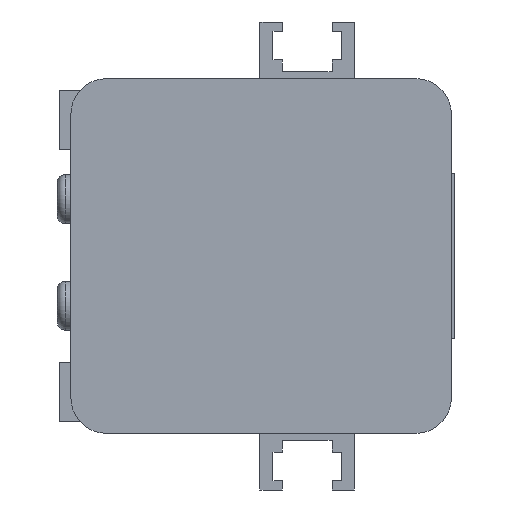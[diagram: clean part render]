
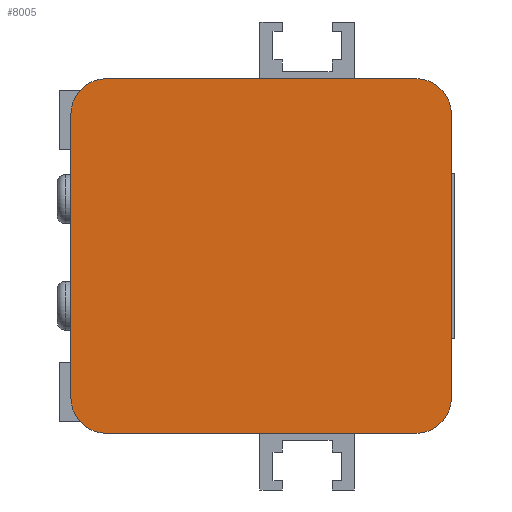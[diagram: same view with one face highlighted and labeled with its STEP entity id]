
A CAD part, left-side view. The second image highlights one B-rep face of the part: STEP entity #8005.
In plain terms, the highlighted planar face has unit normal (-1, 0, 0) as drawn and (0, 0, -1) by its records, which use the part's own axes.
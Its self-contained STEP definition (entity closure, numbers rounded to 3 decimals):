
#646=LINE('',#12201,#1430);
#652=LINE('',#12215,#1436);
#655=LINE('',#12228,#1439);
#689=LINE('',#12298,#1473);
#1430=VECTOR('',#9359,26.2);
#1436=VECTOR('',#9373,24.);
#1439=VECTOR('',#9392,26.2);
#1473=VECTOR('',#9434,24.);
#2061=PLANE('',#8516);
#2507=FACE_OUTER_BOUND('',#2988,.T.);
#2988=EDGE_LOOP('',(#6133,#6134,#6135,#6136,#6137,#6138,#6139,#6140));
#3381=CIRCLE('',#8503,3.);
#3386=CIRCLE('',#8512,3.);
#3387=CIRCLE('',#8517,3.);
#3388=CIRCLE('',#8518,3.);
#3750=VERTEX_POINT('',#12199);
#3751=VERTEX_POINT('',#12200);
#3754=VERTEX_POINT('',#12209);
#3755=VERTEX_POINT('',#12214);
#3756=VERTEX_POINT('',#12223);
#3757=VERTEX_POINT('',#12227);
#3788=VERTEX_POINT('',#12295);
#3789=VERTEX_POINT('',#12297);
#4655=EDGE_CURVE('',#3750,#3751,#646,.T.);
#4660=EDGE_CURVE('',#3751,#3754,#3381,.T.);
#4663=EDGE_CURVE('',#3754,#3755,#652,.T.);
#4668=EDGE_CURVE('',#3755,#3756,#3386,.T.);
#4670=EDGE_CURVE('',#3756,#3757,#655,.T.);
#4704=EDGE_CURVE('',#3788,#3750,#3387,.T.);
#4705=EDGE_CURVE('',#3789,#3788,#689,.T.);
#4706=EDGE_CURVE('',#3757,#3789,#3388,.T.);
#6133=ORIENTED_EDGE('',*,*,#4668,.F.);
#6134=ORIENTED_EDGE('',*,*,#4663,.F.);
#6135=ORIENTED_EDGE('',*,*,#4660,.F.);
#6136=ORIENTED_EDGE('',*,*,#4655,.F.);
#6137=ORIENTED_EDGE('',*,*,#4704,.F.);
#6138=ORIENTED_EDGE('',*,*,#4705,.F.);
#6139=ORIENTED_EDGE('',*,*,#4706,.F.);
#6140=ORIENTED_EDGE('',*,*,#4670,.F.);
#8005=ADVANCED_FACE('',(#2507),#2061,.F.);
#8503=AXIS2_PLACEMENT_3D('',#12210,#9366,#9367);
#8512=AXIS2_PLACEMENT_3D('',#12224,#9387,#9388);
#8516=AXIS2_PLACEMENT_3D('',#12294,#9430,#9431);
#8517=AXIS2_PLACEMENT_3D('',#12296,#9432,#9433);
#8518=AXIS2_PLACEMENT_3D('',#12299,#9435,#9436);
#9359=DIRECTION('',(0.,1.,0.));
#9366=DIRECTION('center_axis',(0.,0.,1.));
#9367=DIRECTION('ref_axis',(0.,-1.,0.));
#9373=DIRECTION('',(-1.,0.,0.));
#9387=DIRECTION('center_axis',(0.,0.,1.));
#9388=DIRECTION('ref_axis',(1.,0.,0.));
#9392=DIRECTION('',(0.,-1.,0.));
#9430=DIRECTION('center_axis',(0.,0.,1.));
#9431=DIRECTION('ref_axis',(1.,0.,0.));
#9432=DIRECTION('center_axis',(0.,0.,1.));
#9433=DIRECTION('ref_axis',(-1.,0.,0.));
#9434=DIRECTION('',(1.,0.,0.));
#9435=DIRECTION('center_axis',(0.,0.,1.));
#9436=DIRECTION('ref_axis',(0.,1.,0.));
#12199=CARTESIAN_POINT('',(17.105,-11.4,-130.));
#12200=CARTESIAN_POINT('',(17.105,14.8,-130.));
#12201=CARTESIAN_POINT('',(17.105,-11.4,-130.));
#12209=CARTESIAN_POINT('',(14.105,17.8,-130.));
#12210=CARTESIAN_POINT('Origin',(14.105,14.8,-130.));
#12214=CARTESIAN_POINT('',(-9.895,17.8,-130.));
#12215=CARTESIAN_POINT('',(14.105,17.8,-130.));
#12223=CARTESIAN_POINT('',(-12.895,14.8,-130.));
#12224=CARTESIAN_POINT('Origin',(-9.895,14.8,-130.));
#12227=CARTESIAN_POINT('',(-12.895,-11.4,-130.));
#12228=CARTESIAN_POINT('',(-12.895,14.8,-130.));
#12294=CARTESIAN_POINT('Origin',(2.105,1.7,-130.));
#12295=CARTESIAN_POINT('',(14.105,-14.4,-130.));
#12296=CARTESIAN_POINT('Origin',(14.105,-11.4,-130.));
#12297=CARTESIAN_POINT('',(-9.895,-14.4,-130.));
#12298=CARTESIAN_POINT('',(-9.895,-14.4,-130.));
#12299=CARTESIAN_POINT('Origin',(-9.895,-11.4,-130.));
